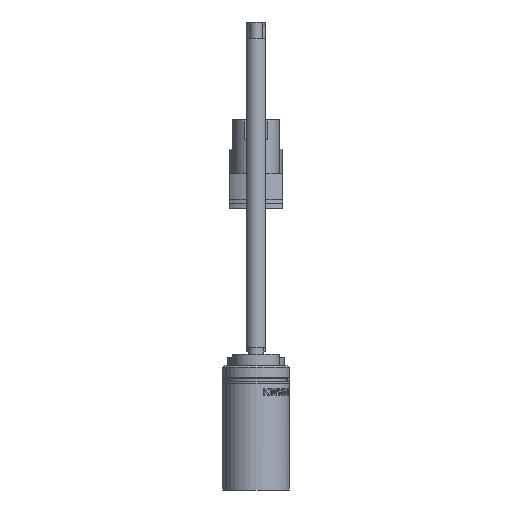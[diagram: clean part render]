
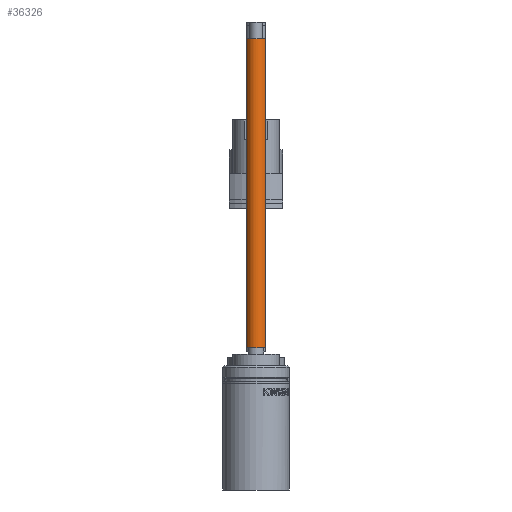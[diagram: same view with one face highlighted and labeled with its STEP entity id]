
A CAD part, left-side view. The second image highlights one B-rep face of the part: STEP entity #36326.
In plain terms, the highlighted cylindrical face has radius 1.5 mm (diameter 3 mm), a full revolution.
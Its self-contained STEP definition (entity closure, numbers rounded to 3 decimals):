
#36326=ADVANCED_FACE('',(#39030,#39031),#37041,.T.);
#37041=CYLINDRICAL_SURFACE('',#81318,1.5);
#39030=FACE_BOUND('',#43843,.T.);
#39031=FACE_BOUND('',#43844,.T.);
#43843=EDGE_LOOP('',(#60523));
#43844=EDGE_LOOP('',(#60524));
#60523=ORIENTED_EDGE('',*,*,#74730,.F.);
#60524=ORIENTED_EDGE('',*,*,#74729,.F.);
#66389=VERTEX_POINT('',#153249);
#66390=VERTEX_POINT('',#153252);
#74729=EDGE_CURVE('',#66389,#66389,#76621,.T.);
#74730=EDGE_CURVE('',#66390,#66390,#76622,.T.);
#76621=CIRCLE('',#81315,1.5);
#76622=CIRCLE('',#81317,1.5);
#81315=AXIS2_PLACEMENT_3D('',#153248,#92662,#92663);
#81317=AXIS2_PLACEMENT_3D('',#153251,#92666,#92667);
#81318=AXIS2_PLACEMENT_3D('',#153253,#92668,#92669);
#92662=DIRECTION('',(0.,0.,1.));
#92663=DIRECTION('',(-1.,0.,0.));
#92666=DIRECTION('',(0.,0.,-1.));
#92667=DIRECTION('',(-1.,0.,0.));
#92668=DIRECTION('',(0.,0.,-1.));
#92669=DIRECTION('',(-1.,0.,0.));
#153248=CARTESIAN_POINT('',(-196.,0.,67.95));
#153249=CARTESIAN_POINT('',(-197.5,0.,67.95));
#153251=CARTESIAN_POINT('',(-196.,0.,21.4));
#153252=CARTESIAN_POINT('',(-197.5,0.,21.4));
#153253=CARTESIAN_POINT('',(-196.,0.,18.7));
